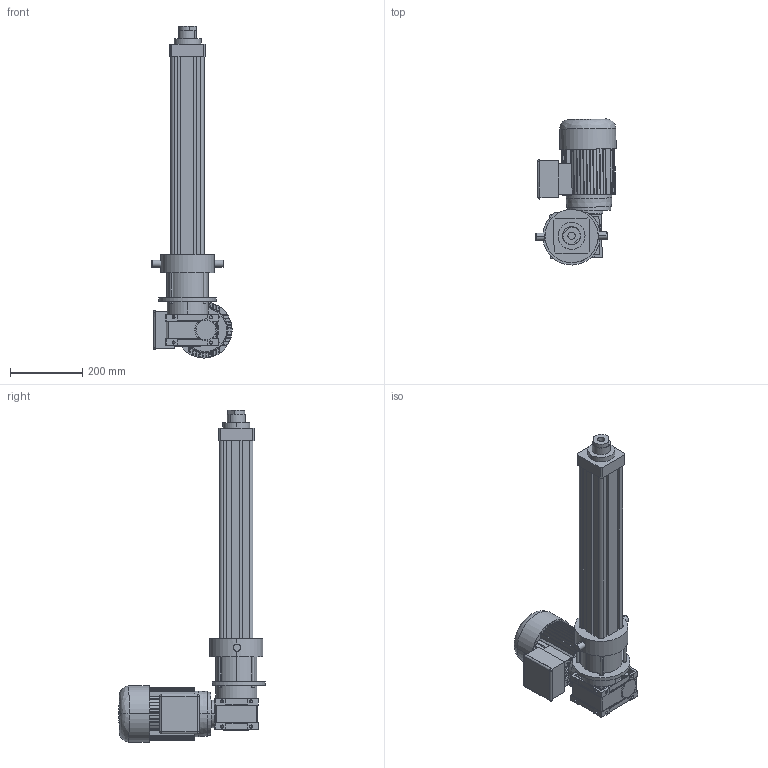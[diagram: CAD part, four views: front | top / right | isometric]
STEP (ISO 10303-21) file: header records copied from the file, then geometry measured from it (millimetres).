
FILE_DESCRIPTION (( 'STEP AP214' ), '1' );
FILE_NAME ('Ass RV80 BI C400.STEP', '2017-01-03T16:20:55', ( 'Hubert' ), ( '' ), 'SwSTEP 2.0', 'SolidWorks 2014', '' );
FILE_SCHEMA (( 'AUTOMOTIVE_DESIGN' ));
Length unit declared in the file: millimetre
Products named in the file (9): Ass CHM50_FC MOT 80 F; _AT_80_B_2_1,10_B14_F_230-400-50_DC-S.3d; _CHM_50_FC_2_7,5_80_B14_B3.3d; Tube MR 80 BI C400; PAAV 80 D; Profilé MRRV80 BI C400; Vis MRRV80 BI C400; PAAR RV 80 B160; Ass RV80 BI C400
Assembly tree (8 placements, depth 3):
  Ass RV80 BI C400
    PAAR RV 80 B160
    Vis MRRV80 BI C400
    Profilé MRRV80 BI C400
    PAAV 80 D
    Tube MR 80 BI C400
    Ass CHM50_FC MOT 80 F
      _CHM_50_FC_2_7,5_80_B14_B3.3d
      _AT_80_B_2_1,10_B14_F_230-400-50_DC-S.3d
Bounding box: 222.96 x 405.71 x 922 mm (x, y, z)
Volume: 9183203.4 mm3; surface area: 1389026.7 mm2
Topology: 7 solids, 11 shells, 833 faces, 2164 edges, 1391 vertices
Faces by surface type: plane 422, cylinder 382, cone 22, bspline 7
Entity records: 34432 total; most frequent: CARTESIAN_POINT 4908, DIRECTION 4660, ORIENTED_EDGE 4288, EDGE_CURVE 2144, AXIS2_PLACEMENT_3D 1689, VERTEX_POINT 1391, LINE 1282, VECTOR 1282
